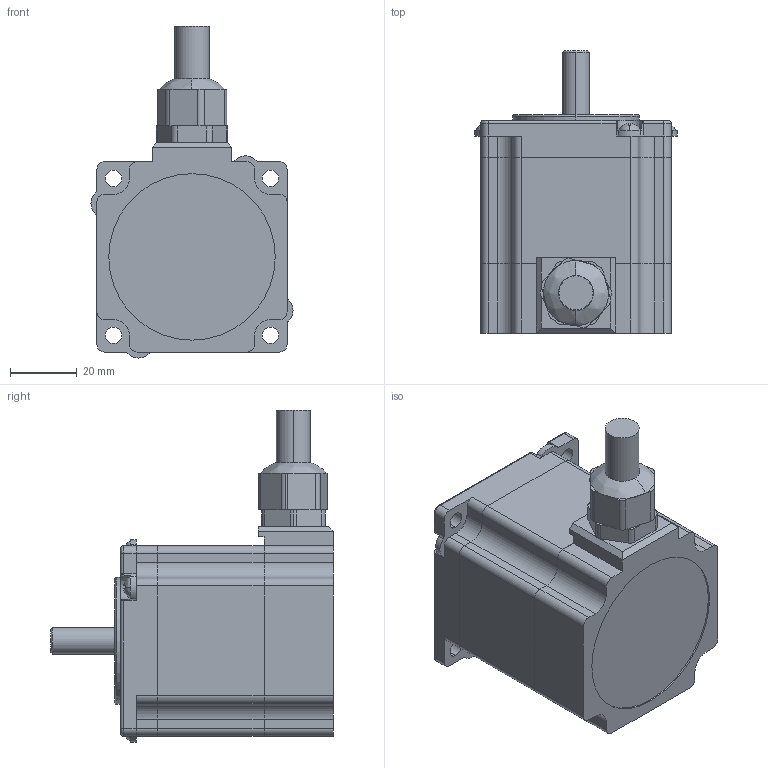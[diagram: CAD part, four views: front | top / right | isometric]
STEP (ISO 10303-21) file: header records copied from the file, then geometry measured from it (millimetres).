
FILE_DESCRIPTION(('FreeCAD Model'),'2;1');
FILE_NAME('C:/Users/ck/Documents/CAD/MSW231A254W1AA3.0.STEP', '2017-02-06T11:19:42',('Author'),(''), 'Open CASCADE STEP processor 6.8','FreeCAD','Unknown');
FILE_SCHEMA(('AUTOMOTIVE_DESIGN_CC2 { 1 2 10303 214 -1 1 5 4 }'));
Length unit declared in the file: millimetre
Products named in the file (5): ASSEMBLY; Front_flange; Rear_flange; Shaft; House
Assembly tree (4 placements, depth 2):
  ASSEMBLY
    Front_flange
    Rear_flange
    Shaft
    House
Bounding box: 60.75 x 84.9 x 99.75 mm (x, y, z)
Volume: 129462.2 mm3; surface area: 42467.6 mm2
Topology: 4 solids, 4 shells, 311 faces, 825 edges, 532 vertices
Faces by surface type: plane 154, cylinder 122, torus 14, cone 11, bspline 10
Entity records: 36978 total; most frequent: CARTESIAN_POINT 21739, DIRECTION 2488, ORIENTED_EDGE 1650, PCURVE 1650, DEFINITIONAL_REPRESENTATION 1650, LINE 1079, VECTOR 1079, EDGE_CURVE 825
